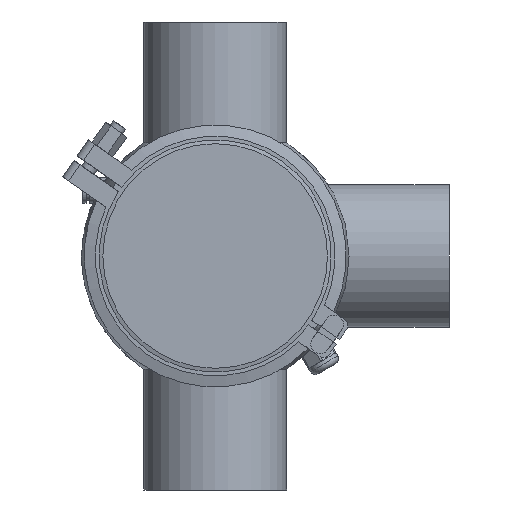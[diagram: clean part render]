
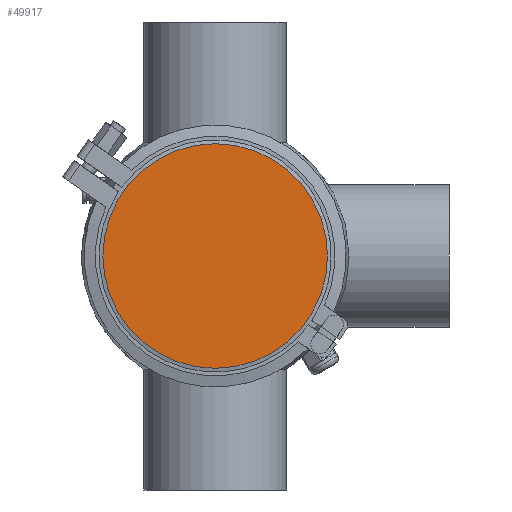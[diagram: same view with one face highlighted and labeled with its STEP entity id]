
A CAD part, front view. The second image highlights one B-rep face of the part: STEP entity #49917.
In plain terms, the highlighted planar face has unit normal (0, -1, 0).
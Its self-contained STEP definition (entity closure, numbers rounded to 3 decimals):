
#4289 = DIRECTION ( 'NONE',  ( 0., 0., 1. ) ) ;
#4678 = ORIENTED_EDGE ( 'NONE', *, *, #50199, .F. ) ;
#12572 = AXIS2_PLACEMENT_3D ( 'NONE', #23051, #17477, #36944 ) ;
#13549 = AXIS2_PLACEMENT_3D ( 'NONE', #27870, #52550, #4289 ) ;
#13818 = EDGE_LOOP ( 'NONE', ( #4678 ) ) ;
#17477 = DIRECTION ( 'NONE',  ( 0., -1., 0. ) ) ;
#18082 = PLANE ( 'NONE',  #12572 ) ;
#23051 = CARTESIAN_POINT ( 'NONE',  ( -60., 0., 0. ) ) ;
#27870 = CARTESIAN_POINT ( 'NONE',  ( 0., 0., 0. ) ) ;
#27946 = FACE_OUTER_BOUND ( 'NONE', #13818, .T. ) ;
#31672 = VERTEX_POINT ( 'NONE', #45292 ) ;
#36944 = DIRECTION ( 'NONE',  ( 0., 0., -1. ) ) ;
#44251 = CIRCLE ( 'NONE', #13549, 60. ) ;
#45292 = CARTESIAN_POINT ( 'NONE',  ( 0., 0., 60. ) ) ;
#49917 = ADVANCED_FACE ( 'NONE', ( #27946 ), #18082, .T. ) ;
#50199 = EDGE_CURVE ( 'NONE', #31672, #31672, #44251, .T. ) ;
#52550 = DIRECTION ( 'NONE',  ( 0., 1., 0. ) ) ;
